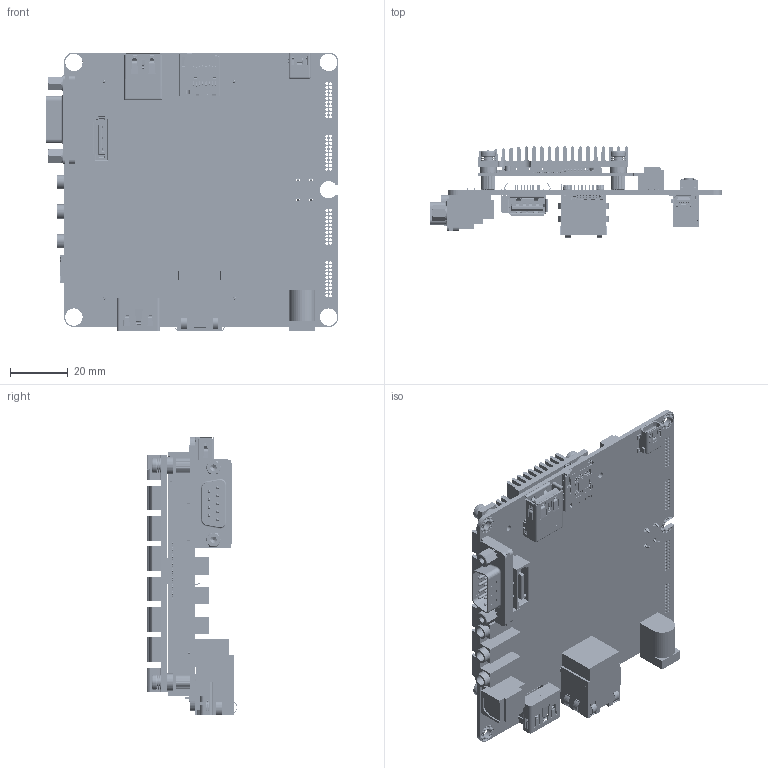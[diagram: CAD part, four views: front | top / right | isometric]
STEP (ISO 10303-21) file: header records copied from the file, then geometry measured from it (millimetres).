
FILE_DESCRIPTION((''),'2;1');
FILE_NAME('WANDBOARD_ASM_185_ASM','2013-08-19T',('reinier'),(''),'','','');
FILE_SCHEMA(('CONFIG_CONTROL_DESIGN'));
Products named in the file (36): WANDBOARD-PCB_9; BUTTON_7; EDM_IMX6_STARTBOARD_4; SD-CARD_1; 33-PIN-FPC-CONNECTOR_1; MANIFOLD_SOLID_BREP_141460; MANIFOLD_SOLID_BREP_141611; MEMORY_3_ASM; IPEX_CONNECTOR_1; WIFI_1; FREESCALE-IMX6Q_3; WASHER_2MM_3; MYLAR_HEATSINK_2; EDM_HEATSINK_52X82X13_ADJUSTED3; MANIFOLD_SOLID_BREP_226848; MANIFOLD_SOLID_BREP_227011; MANIFOLD_SOLID_BREP_227174; SCREW_M3X9_WASHER_SILVER_4_ASM; THERMOPAD-9X9X1_1; EDM-IMX6-STARTBOARD_ASM_10_ASM; NUT_M3_2; POWER_CONNECTOR_5V_2; LAN_2; HDMI_1; SPDIF_2; MANIFOLD_SOLID_BREP_262069; MANIFOLD_SOLID_BREP_262395; MANIFOLD_SOLID_BREP_262721; AUDIO_10_ASM; SERIAL_3; SERIAL_BOLT_1; SATA_CONNECTOR_2; USB_2; USB_CLIENT_1; MXM3_4; WANDBOARD_ASM_185_ASM
Assembly tree (46 placements, depth 4):
  WANDBOARD_ASM_185_ASM
    WANDBOARD-PCB_9
    BUTTON_7
    EDM-IMX6-STARTBOARD_ASM_10_ASM
      EDM_IMX6_STARTBOARD_4
      SD-CARD_1
      33-PIN-FPC-CONNECTOR_1
      MEMORY_3_ASM
        MANIFOLD_SOLID_BREP_141460
        MANIFOLD_SOLID_BREP_141611
      IPEX_CONNECTOR_1
      WIFI_1
      FREESCALE-IMX6Q_3
      WASHER_2MM_3  x4
      MYLAR_HEATSINK_2
      EDM_HEATSINK_52X82X13_ADJUSTED3
      SCREW_M3X9_WASHER_SILVER_4_ASM  x4
        MANIFOLD_SOLID_BREP_226848
        MANIFOLD_SOLID_BREP_227011
        MANIFOLD_SOLID_BREP_227174
      THERMOPAD-9X9X1_1
    NUT_M3_2  x4
    POWER_CONNECTOR_5V_2
    LAN_2
    HDMI_1
    SPDIF_2
    AUDIO_10_ASM
      MANIFOLD_SOLID_BREP_262069
      MANIFOLD_SOLID_BREP_262395
      MANIFOLD_SOLID_BREP_262721
    SERIAL_3
    SERIAL_BOLT_1  x2
    SATA_CONNECTOR_2
    USB_2
    SD-CARD_1
    USB_CLIENT_1
    MXM3_4
Bounding box: 101.39 x 31.43 x 96.55 mm (x, y, z)
Volume: 53740.7 mm3; surface area: 76572.5 mm2
Topology: 48 solids, 48 shells, 10825 faces, 29170 edges, 19239 vertices
Faces by surface type: plane 7179, cylinder 3398, cone 128, bspline 42, sphere 38, torus 25, extrusion 15
Entity records: 310754 total; most frequent: CARTESIAN_POINT 57609, ORIENTED_EDGE 52490, DIRECTION 52078, EDGE_CURVE 26245, VECTOR 19396, LINE 19381, VERTEX_POINT 17361, AXIS2_PLACEMENT_3D 16341
